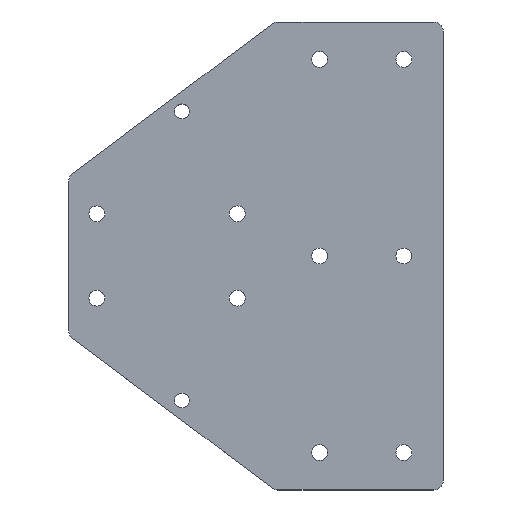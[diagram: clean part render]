
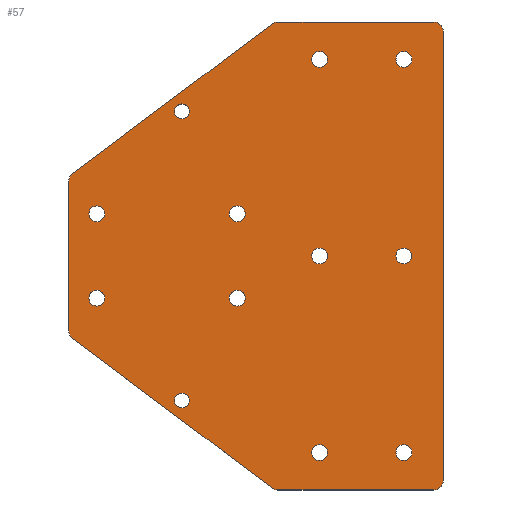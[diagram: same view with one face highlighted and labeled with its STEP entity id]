
A CAD part, top view. The second image highlights one B-rep face of the part: STEP entity #57.
In plain terms, the highlighted planar face has unit normal (0, 0, 1).
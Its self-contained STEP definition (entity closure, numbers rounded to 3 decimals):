
#57=ADVANCED_FACE('',(#313,#315,#317,#319,#321,#323,#325,#327,#329,#331,#333,#335,
#337),#339,.T.);
#313=FACE_BOUND('',#314,.T.);
#314=EDGE_LOOP('',(#560,#561,#562,#563,#564,#565,#566,#567,#568,#569,#570,#571));
#315=FACE_BOUND('',#316,.T.);
#316=EDGE_LOOP('',(#572));
#317=FACE_BOUND('',#318,.T.);
#318=EDGE_LOOP('',(#573));
#319=FACE_BOUND('',#320,.T.);
#320=EDGE_LOOP('',(#574));
#321=FACE_BOUND('',#322,.T.);
#322=EDGE_LOOP('',(#575));
#323=FACE_BOUND('',#324,.T.);
#324=EDGE_LOOP('',(#576));
#325=FACE_BOUND('',#326,.T.);
#326=EDGE_LOOP('',(#577));
#327=FACE_BOUND('',#328,.T.);
#328=EDGE_LOOP('',(#578));
#329=FACE_BOUND('',#330,.T.);
#330=EDGE_LOOP('',(#579));
#331=FACE_BOUND('',#332,.T.);
#332=EDGE_LOOP('',(#580));
#333=FACE_BOUND('',#334,.T.);
#334=EDGE_LOOP('',(#581));
#335=FACE_BOUND('',#336,.T.);
#336=EDGE_LOOP('',(#582));
#337=FACE_BOUND('',#338,.T.);
#338=EDGE_LOOP('',(#583));
#339=PLANE('',#340);
#340=AXIS2_PLACEMENT_3D('',#341,#342,#343);
#341=CARTESIAN_POINT('',(0.,0.,4.));
#342=DIRECTION('',(0.,0.,1.));
#343=DIRECTION('',(-1.,0.,0.));
#560=ORIENTED_EDGE('',*,*,#680,.T.);
#561=ORIENTED_EDGE('',*,*,#681,.T.);
#562=ORIENTED_EDGE('',*,*,#682,.T.);
#563=ORIENTED_EDGE('',*,*,#683,.T.);
#564=ORIENTED_EDGE('',*,*,#684,.T.);
#565=ORIENTED_EDGE('',*,*,#685,.T.);
#566=ORIENTED_EDGE('',*,*,#686,.T.);
#567=ORIENTED_EDGE('',*,*,#687,.T.);
#568=ORIENTED_EDGE('',*,*,#688,.T.);
#569=ORIENTED_EDGE('',*,*,#689,.T.);
#570=ORIENTED_EDGE('',*,*,#690,.T.);
#571=ORIENTED_EDGE('',*,*,#691,.T.);
#572=ORIENTED_EDGE('',*,*,#692,.T.);
#573=ORIENTED_EDGE('',*,*,#693,.T.);
#574=ORIENTED_EDGE('',*,*,#694,.T.);
#575=ORIENTED_EDGE('',*,*,#695,.T.);
#576=ORIENTED_EDGE('',*,*,#696,.T.);
#577=ORIENTED_EDGE('',*,*,#697,.T.);
#578=ORIENTED_EDGE('',*,*,#698,.T.);
#579=ORIENTED_EDGE('',*,*,#699,.T.);
#580=ORIENTED_EDGE('',*,*,#700,.T.);
#581=ORIENTED_EDGE('',*,*,#701,.T.);
#582=ORIENTED_EDGE('',*,*,#702,.T.);
#583=ORIENTED_EDGE('',*,*,#703,.T.);
#680=EDGE_CURVE('',#764,#765,#766,.T.);
#681=EDGE_CURVE('',#765,#767,#768,.T.);
#682=EDGE_CURVE('',#767,#769,#770,.T.);
#683=EDGE_CURVE('',#769,#771,#772,.T.);
#684=EDGE_CURVE('',#771,#773,#774,.T.);
#685=EDGE_CURVE('',#773,#775,#776,.T.);
#686=EDGE_CURVE('',#775,#777,#778,.T.);
#687=EDGE_CURVE('',#777,#779,#780,.T.);
#688=EDGE_CURVE('',#779,#781,#782,.T.);
#689=EDGE_CURVE('',#781,#783,#784,.T.);
#690=EDGE_CURVE('',#783,#785,#786,.T.);
#691=EDGE_CURVE('',#785,#764,#787,.T.);
#692=EDGE_CURVE('',#788,#788,#789,.F.);
#693=EDGE_CURVE('',#790,#790,#791,.F.);
#694=EDGE_CURVE('',#792,#792,#793,.F.);
#695=EDGE_CURVE('',#794,#794,#795,.F.);
#696=EDGE_CURVE('',#796,#796,#797,.F.);
#697=EDGE_CURVE('',#798,#798,#799,.F.);
#698=EDGE_CURVE('',#800,#800,#801,.F.);
#699=EDGE_CURVE('',#802,#802,#803,.F.);
#700=EDGE_CURVE('',#804,#804,#805,.F.);
#701=EDGE_CURVE('',#806,#806,#807,.F.);
#702=EDGE_CURVE('',#808,#808,#809,.F.);
#703=EDGE_CURVE('',#810,#810,#811,.F.);
#764=VERTEX_POINT('',#938);
#765=VERTEX_POINT('',#939);
#766=CIRCLE('',#940,5.);
#767=VERTEX_POINT('',#944);
#768=LINE('',#945,#946);
#769=VERTEX_POINT('',#948);
#770=CIRCLE('',#949,5.);
#771=VERTEX_POINT('',#953);
#772=LINE('',#954,#955);
#773=VERTEX_POINT('',#957);
#774=CIRCLE('',#958,5.);
#775=VERTEX_POINT('',#962);
#776=LINE('',#963,#964);
#777=VERTEX_POINT('',#966);
#778=CIRCLE('',#967,5.);
#779=VERTEX_POINT('',#971);
#780=LINE('',#972,#973);
#781=VERTEX_POINT('',#975);
#782=CIRCLE('',#976,5.);
#783=VERTEX_POINT('',#980);
#784=LINE('',#981,#982);
#785=VERTEX_POINT('',#984);
#786=CIRCLE('',#985,5.);
#787=LINE('',#989,#990);
#788=VERTEX_POINT('',#992);
#789=CIRCLE('',#993,4.25);
#790=VERTEX_POINT('',#997);
#791=CIRCLE('',#998,4.25);
#792=VERTEX_POINT('',#1002);
#793=CIRCLE('',#1003,4.25);
#794=VERTEX_POINT('',#1007);
#795=CIRCLE('',#1008,4.25);
#796=VERTEX_POINT('',#1012);
#797=CIRCLE('',#1013,4.25);
#798=VERTEX_POINT('',#1017);
#799=CIRCLE('',#1018,4.25);
#800=VERTEX_POINT('',#1022);
#801=CIRCLE('',#1023,4.25);
#802=VERTEX_POINT('',#1027);
#803=CIRCLE('',#1028,4.25);
#804=VERTEX_POINT('',#1032);
#805=CIRCLE('',#1033,4.25);
#806=VERTEX_POINT('',#1037);
#807=CIRCLE('',#1038,4.25);
#808=VERTEX_POINT('',#1042);
#809=CIRCLE('',#1043,4.);
#810=VERTEX_POINT('',#1047);
#811=CIRCLE('',#1048,4.);
#938=CARTESIAN_POINT('',(-200.,-40.,4.));
#939=CARTESIAN_POINT('',(-198.,-44.,4.));
#940=AXIS2_PLACEMENT_3D('',#941,#942,#943);
#941=CARTESIAN_POINT('',(-195.,-40.,4.));
#942=DIRECTION('',(0.,0.,1.));
#943=DIRECTION('',(-1.,0.,0.));
#944=CARTESIAN_POINT('',(-91.333,-124.,4.));
#945=CARTESIAN_POINT('',(-198.,-44.,4.));
#946=VECTOR('',#947,1.);
#947=DIRECTION('',(0.8,-0.6,0.));
#948=CARTESIAN_POINT('',(-88.333,-125.,4.));
#949=AXIS2_PLACEMENT_3D('',#950,#951,#952);
#950=CARTESIAN_POINT('',(-88.333,-120.,4.));
#951=DIRECTION('',(0.,0.,1.));
#952=DIRECTION('',(-0.6,-0.8,0.));
#953=CARTESIAN_POINT('',(-5.,-125.,4.));
#954=CARTESIAN_POINT('',(-88.333,-125.,4.));
#955=VECTOR('',#956,1.);
#956=DIRECTION('',(1.,0.,0.));
#957=CARTESIAN_POINT('',(0.,-120.,4.));
#958=AXIS2_PLACEMENT_3D('',#959,#960,#961);
#959=CARTESIAN_POINT('',(-5.,-120.,4.));
#960=DIRECTION('',(0.,0.,1.));
#961=DIRECTION('',(0.,-1.,0.));
#962=CARTESIAN_POINT('',(0.,120.,4.));
#963=CARTESIAN_POINT('',(0.,-120.,4.));
#964=VECTOR('',#965,1.);
#965=DIRECTION('',(0.,1.,0.));
#966=CARTESIAN_POINT('',(-5.,125.,4.));
#967=AXIS2_PLACEMENT_3D('',#968,#969,#970);
#968=CARTESIAN_POINT('',(-5.,120.,4.));
#969=DIRECTION('',(0.,0.,1.));
#970=DIRECTION('',(1.,0.,0.));
#971=CARTESIAN_POINT('',(-88.333,125.,4.));
#972=CARTESIAN_POINT('',(-5.,125.,4.));
#973=VECTOR('',#974,1.);
#974=DIRECTION('',(-1.,0.,0.));
#975=CARTESIAN_POINT('',(-91.333,124.,4.));
#976=AXIS2_PLACEMENT_3D('',#977,#978,#979);
#977=CARTESIAN_POINT('',(-88.333,120.,4.));
#978=DIRECTION('',(0.,0.,1.));
#979=DIRECTION('',(0.,1.,0.));
#980=CARTESIAN_POINT('',(-198.,44.,4.));
#981=CARTESIAN_POINT('',(-91.333,124.,4.));
#982=VECTOR('',#983,1.);
#983=DIRECTION('',(-0.8,-0.6,0.));
#984=CARTESIAN_POINT('',(-200.,40.,4.));
#985=AXIS2_PLACEMENT_3D('',#986,#987,#988);
#986=CARTESIAN_POINT('',(-195.,40.,4.));
#987=DIRECTION('',(0.,0.,1.));
#988=DIRECTION('',(-0.6,0.8,0.));
#989=CARTESIAN_POINT('',(-200.,40.,4.));
#990=VECTOR('',#991,1.);
#991=DIRECTION('',(0.,-1.,0.));
#992=CARTESIAN_POINT('',(-21.,-4.25,4.));
#993=AXIS2_PLACEMENT_3D('',#994,#995,#996);
#994=CARTESIAN_POINT('',(-21.,0.,4.));
#995=DIRECTION('',(0.,0.,1.));
#996=DIRECTION('',(0.,-1.,0.));
#997=CARTESIAN_POINT('',(-110.,-26.75,4.));
#998=AXIS2_PLACEMENT_3D('',#999,#1000,#1001);
#999=CARTESIAN_POINT('',(-110.,-22.5,4.));
#1000=DIRECTION('',(0.,0.,1.));
#1001=DIRECTION('',(0.,-1.,0.));
#1002=CARTESIAN_POINT('',(-110.,18.25,4.));
#1003=AXIS2_PLACEMENT_3D('',#1004,#1005,#1006);
#1004=CARTESIAN_POINT('',(-110.,22.5,4.));
#1005=DIRECTION('',(0.,0.,1.));
#1006=DIRECTION('',(0.,-1.,0.));
#1007=CARTESIAN_POINT('',(-185.,-26.75,4.));
#1008=AXIS2_PLACEMENT_3D('',#1009,#1010,#1011);
#1009=CARTESIAN_POINT('',(-185.,-22.5,4.));
#1010=DIRECTION('',(0.,0.,1.));
#1011=DIRECTION('',(0.,-1.,0.));
#1012=CARTESIAN_POINT('',(-66.,-4.25,4.));
#1013=AXIS2_PLACEMENT_3D('',#1014,#1015,#1016);
#1014=CARTESIAN_POINT('',(-66.,0.,4.));
#1015=DIRECTION('',(0.,0.,1.));
#1016=DIRECTION('',(0.,-1.,0.));
#1017=CARTESIAN_POINT('',(-185.,18.25,4.));
#1018=AXIS2_PLACEMENT_3D('',#1019,#1020,#1021);
#1019=CARTESIAN_POINT('',(-185.,22.5,4.));
#1020=DIRECTION('',(0.,0.,1.));
#1021=DIRECTION('',(0.,-1.,0.));
#1022=CARTESIAN_POINT('',(-66.,-109.255,4.));
#1023=AXIS2_PLACEMENT_3D('',#1024,#1025,#1026);
#1024=CARTESIAN_POINT('',(-66.,-105.005,4.));
#1025=DIRECTION('',(0.,0.,1.));
#1026=DIRECTION('',(0.,-1.,0.));
#1027=CARTESIAN_POINT('',(-21.,-109.255,4.));
#1028=AXIS2_PLACEMENT_3D('',#1029,#1030,#1031);
#1029=CARTESIAN_POINT('',(-21.,-105.005,4.));
#1030=DIRECTION('',(0.,0.,1.));
#1031=DIRECTION('',(0.,-1.,0.));
#1032=CARTESIAN_POINT('',(-66.,100.755,4.));
#1033=AXIS2_PLACEMENT_3D('',#1034,#1035,#1036);
#1034=CARTESIAN_POINT('',(-66.,105.005,4.));
#1035=DIRECTION('',(0.,0.,1.));
#1036=DIRECTION('',(0.,-1.,0.));
#1037=CARTESIAN_POINT('',(-21.,100.755,4.));
#1038=AXIS2_PLACEMENT_3D('',#1039,#1040,#1041);
#1039=CARTESIAN_POINT('',(-21.,105.005,4.));
#1040=DIRECTION('',(0.,0.,1.));
#1041=DIRECTION('',(0.,-1.,0.));
#1042=CARTESIAN_POINT('',(-143.567,-77.2,4.));
#1043=AXIS2_PLACEMENT_3D('',#1044,#1045,#1046);
#1044=CARTESIAN_POINT('',(-139.567,-77.2,4.));
#1045=DIRECTION('',(0.,0.,1.));
#1046=DIRECTION('',(-1.,0.,0.));
#1047=CARTESIAN_POINT('',(-143.567,77.2,4.));
#1048=AXIS2_PLACEMENT_3D('',#1049,#1050,#1051);
#1049=CARTESIAN_POINT('',(-139.567,77.2,4.));
#1050=DIRECTION('',(0.,0.,1.));
#1051=DIRECTION('',(-1.,0.,0.));
